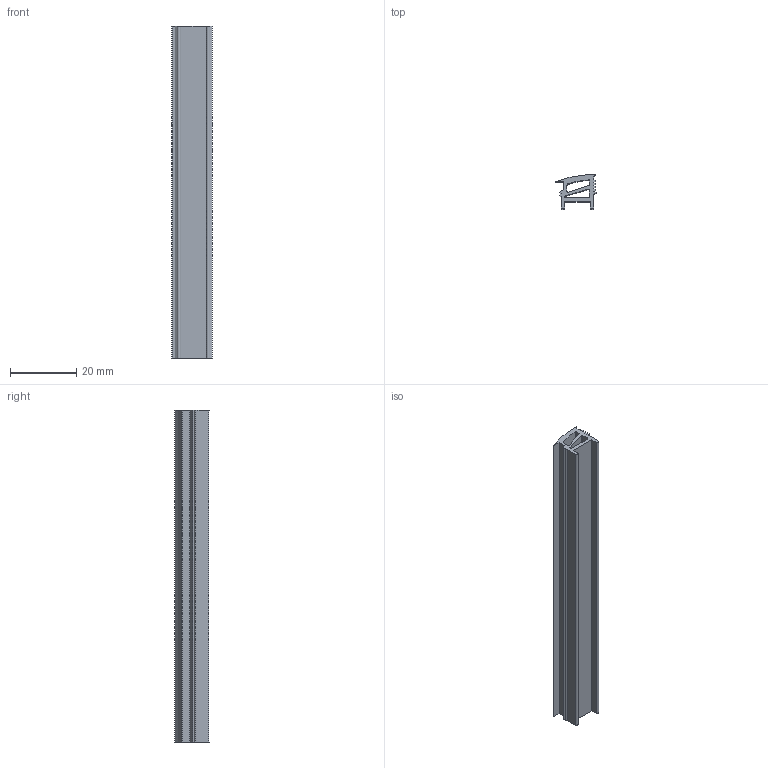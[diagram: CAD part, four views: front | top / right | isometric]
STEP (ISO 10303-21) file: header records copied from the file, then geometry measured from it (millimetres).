
FILE_DESCRIPTION (( 'STEP AP214' ), '1' );
FILE_NAME ('F50835.step', '2024-12-03T16:18:07', ( '' ), ( '' ), 'SwSTEP 2.0', 'SolidWorks 2023', '' );
FILE_SCHEMA (( 'AUTOMOTIVE_DESIGN' ));
Length unit declared in the file: millimetre
Products named in the file (1): F50835
Bounding box: 12.07 x 10.41 x 100 mm (x, y, z)
Volume: 5306.6 mm3; surface area: 8838.9 mm2
Topology: 1 solids, 1 shells, 45 faces, 129 edges, 86 vertices
Faces by surface type: plane 32, cylinder 13
Entity records: 1500 total; most frequent: CARTESIAN_POINT 261, ORIENTED_EDGE 258, DIRECTION 247, EDGE_CURVE 129, VECTOR 103, LINE 103, VERTEX_POINT 86, AXIS2_PLACEMENT_3D 72
